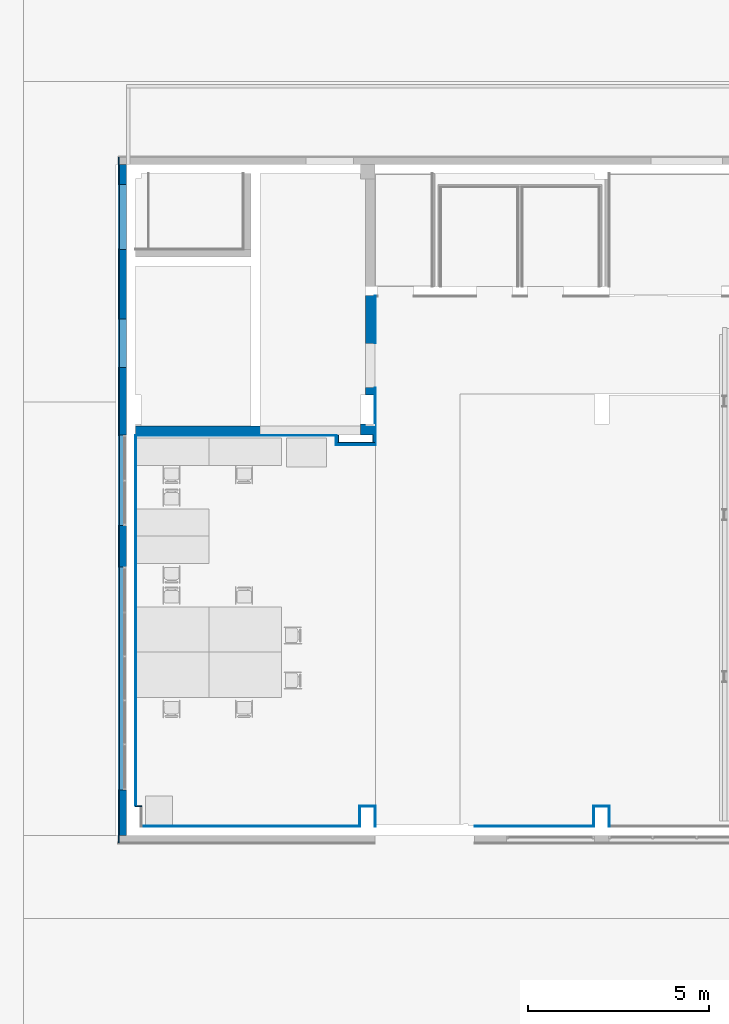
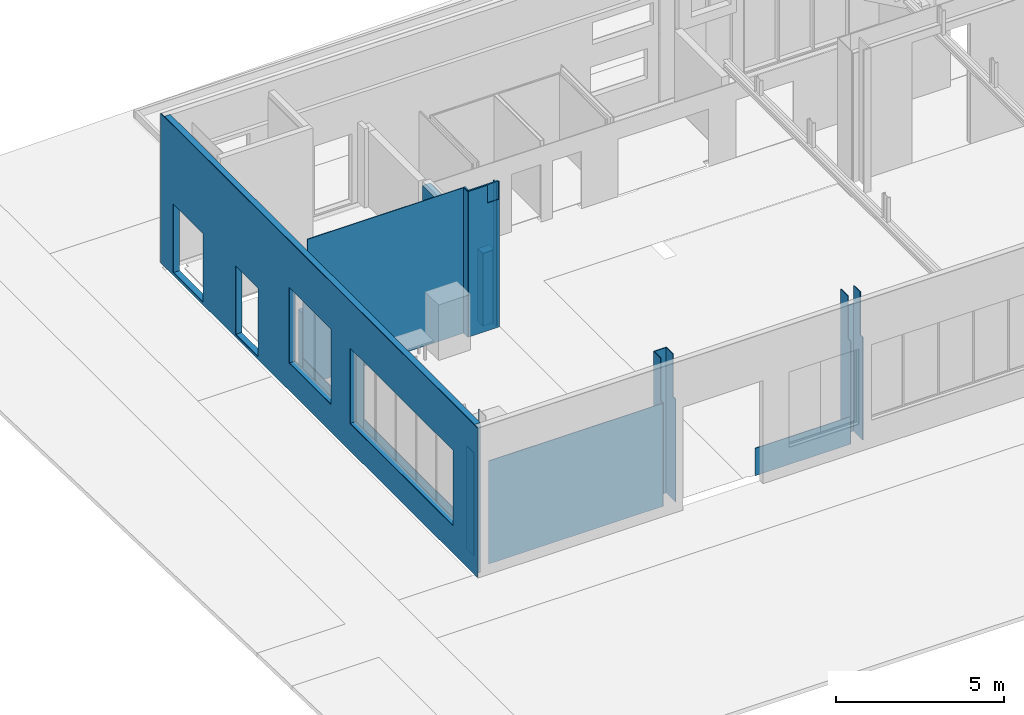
# One storey, part 11 of 27: 25 walls, 10 openings.
"""IFC2X3 building model written with IfcOpenShell, lengths in centimetres."""

from ifc_helpers import new_model, entity, si_unit, converted_unit, derived_unit, direction, frame, frame_2d, origin, origin_2d_with_axis, place, context, subcontext, project, spatial, polyline, rectangle, extrude, clip, bounded_halfspace, material, layer, layer_set, layer_usage, type_object, element, save


model = new_model("IFC2X3")

# Units and contexts
model_context = context("Model", 3, precision=0.001, world=origin(), true_north=direction((6.12303176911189e-17, 1.0)))
body_context = subcontext(model_context, "Body", "Model", "MODEL_VIEW")
ifc_project = project(units=[si_unit("LENGTHUNIT", "METRE", prefix="CENTI"), si_unit("AREAUNIT", "SQUARE_METRE"), si_unit("VOLUMEUNIT", "CUBIC_METRE"), converted_unit("PLANEANGLEUNIT", "DEGREE", entity("IfcRatioMeasure", 0.0174532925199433), si_unit("PLANEANGLEUNIT", "RADIAN"), dimensions=[0, 0, 0, 0, 0, 0, 0]), si_unit("MASSUNIT", "GRAM", prefix="KILO"), derived_unit("MASSDENSITYUNIT", [(si_unit("MASSUNIT", "GRAM", prefix="KILO"), 1), (si_unit("LENGTHUNIT", "METRE"), -3)]), derived_unit("MOMENTOFINERTIAUNIT", [(si_unit("LENGTHUNIT", "METRE"), 4)]), si_unit("TIMEUNIT", "SECOND"), si_unit("FREQUENCYUNIT", "HERTZ"), si_unit("THERMODYNAMICTEMPERATUREUNIT", "DEGREE_CELSIUS"), derived_unit("THERMALTRANSMITTANCEUNIT", [(si_unit("MASSUNIT", "GRAM", prefix="KILO"), 1), (si_unit("THERMODYNAMICTEMPERATUREUNIT", "KELVIN"), -1), (si_unit("TIMEUNIT", "SECOND"), -3)]), derived_unit("VOLUMETRICFLOWRATEUNIT", [(si_unit("LENGTHUNIT", "METRE"), 3), (si_unit("TIMEUNIT", "SECOND"), -1)]), si_unit("ELECTRICCURRENTUNIT", "AMPERE"), si_unit("ELECTRICVOLTAGEUNIT", "VOLT"), si_unit("POWERUNIT", "WATT"), si_unit("FORCEUNIT", "NEWTON", prefix="KILO"), si_unit("ILLUMINANCEUNIT", "LUX"), si_unit("LUMINOUSFLUXUNIT", "LUMEN"), si_unit("LUMINOUSINTENSITYUNIT", "CANDELA"), derived_unit("USERDEFINED", [(si_unit("MASSUNIT", "GRAM", prefix="KILO"), -1), (si_unit("LENGTHUNIT", "METRE"), -2), (si_unit("TIMEUNIT", "SECOND"), 3), (si_unit("LUMINOUSFLUXUNIT", "LUMEN"), 1)]), derived_unit("LINEARVELOCITYUNIT", [(si_unit("LENGTHUNIT", "METRE"), 1), (si_unit("TIMEUNIT", "SECOND"), -1)]), si_unit("PRESSUREUNIT", "PASCAL"), derived_unit("USERDEFINED", [(si_unit("LENGTHUNIT", "METRE"), -2), (si_unit("MASSUNIT", "GRAM", prefix="KILO"), 1), (si_unit("TIMEUNIT", "SECOND"), -2)]), derived_unit("LINEARFORCEUNIT", [(si_unit("MASSUNIT", "GRAM", prefix="KILO"), 1), (si_unit("LENGTHUNIT", "METRE"), 1), (si_unit("TIMEUNIT", "SECOND"), -2), (si_unit("LENGTHUNIT", "METRE"), -1)]), derived_unit("PLANARFORCEUNIT", [(si_unit("MASSUNIT", "GRAM", prefix="KILO"), 1), (si_unit("LENGTHUNIT", "METRE"), 1), (si_unit("TIMEUNIT", "SECOND"), -2), (si_unit("LENGTHUNIT", "METRE"), -2)])], contexts=[model_context])

# Site, building, storey
site_placement = place(None, origin())
site = spatial("IfcSite", under=ifc_project, at=site_placement, Name="Default", CompositionType="ELEMENT")
building_placement = place(site_placement, origin())
building = spatial("IfcBuilding", under=site, at=building_placement, CompositionType="ELEMENT")
storey_placement = place(building_placement, origin())
storey = spatial("IfcBuildingStorey", under=building, at=storey_placement, Name="Poziom 0 A +/-0,00", CompositionType="ELEMENT", Elevation=3.38570427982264e-11)

# Wall
ifc_material_1 = material(Name="Pustak ceramiczny, klasa 15")
ifc_layer_1 = layer(ifc_material_1, 25.0)
ifc_layer_set_1 = layer_set([ifc_layer_1], Name="Ściana podstawowa:Ściana murowana gr. 25cm")
ifc_layer_usage_1 = layer_usage(ifc_layer_set_1, "AXIS2", "NEGATIVE", 12.5)
wall_type_1 = type_object("IfcWallType", Name="Ściana podstawowa:Ściana murowana gr. 25cm", PredefinedType="STANDARD", material=ifc_layer_set_1)
wall_1_placement = place(storey_placement, frame((-2909.26510381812, 1371.62745234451, 0.0)))
element("IfcWallStandardCase", 1, at=wall_1_placement, inside=storey, type_object=wall_type_1, material=ifc_layer_usage_1, Name="Ściana podstawowa:Ściana murowana gr. 25cm", ObjectType="Ściana podstawowa:Ściana murowana gr. 25cm", context=body_context, shape_type="SweptSolid", body=[
    extrude(rectangle(XDim=619.999997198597, YDim=24.9999999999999, at=frame_2d((309.999998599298, 0.0), x_axis=(-1.0, 0.0))), origin(), (0.0, 0.0, 1.0), 264.999999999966),
])

# Wall, opening
ifc_layer_usage_2 = layer_usage(ifc_layer_set_1, "AXIS2", "NEGATIVE", 12.5)
wall_2_placement = place(storey_placement, frame((-2261.76511967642, 1470.12745207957, 0.0), z_axis=(0.0, 0.0, 1.0), x_axis=(0.0, 1.0, 0.0)))
wall_2 = element("IfcWallStandardCase", 2, at=wall_2_placement, inside=storey, type_object=wall_type_1, material=ifc_layer_usage_2, Name="Ściana podstawowa:Ściana murowana gr. 25cm", ObjectType="Ściana podstawowa:Ściana murowana gr. 25cm", context=body_context, shape_type="SweptSolid", body=[
    extrude(rectangle(XDim=272.999999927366, YDim=25.0000000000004, at=frame_2d((136.499999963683, 0.0), x_axis=(-1.0, 0.0))), origin(), (0.0, 0.0, 1.0), 274.999999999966),
])
opening_1_placement = place(wall_2_placement, origin())
element("IfcOpeningElement", 3, at=opening_1_placement, cuts=wall_2, Name="Ściana podstawowa:Ściana murowana gr. 25cm", ObjectType="Opening", context=body_context, shape_type="SweptSolid", body=[
    extrude(rectangle(XDim=210.0, YDim=122.0, at=frame_2d((0.0, 0.0), x_axis=(0.0, 1.0))), frame((81.0, -164.9, 105.0), z_axis=(0.0, 1.0, 0.0), x_axis=(1.0, 0.0, 0.0)), (0.0, 0.0, 1.0), 304.8),
])

# Walls
ifc_material_2 = material(Name="Cegła, zwykła")
ifc_layer_2 = layer(ifc_material_2, 40.0)
ifc_layer_set_2 = layer_set([ifc_layer_2], Name="Ściana podstawowa:Ściana murowana gr. 40cm")
ifc_layer_usage_3 = layer_usage(ifc_layer_set_2, "AXIS2", "NEGATIVE", 20.0)
wall_type_2 = type_object("IfcWallType", Name="Ściana podstawowa:Ściana murowana gr. 40cm", PredefinedType="STANDARD", material=ifc_layer_set_2)
wall_3_placement = place(storey_placement, frame((-2269.26510661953, 1390.12745208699, 0.0), z_axis=(0.0, 0.0, 1.0), x_axis=(0.0, -1.0, 0.0)))
element("IfcWallStandardCase", 4, at=wall_3_placement, inside=storey, type_object=wall_type_2, material=ifc_layer_usage_3, Name="Ściana podstawowa:Ściana murowana gr. 40cm", ObjectType="Ściana podstawowa:Ściana murowana gr. 40cm", context=body_context, shape_type="SweptSolid", body=[
    extrude(rectangle(XDim=30.9999993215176, YDim=39.9999999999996, at=frame_2d((15.4999996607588, 0.0), x_axis=(-1.0, 0.0))), origin(), (0.0, 0.0, 1.0), 264.999999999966),
])
ifc_material_3 = material(Name="Wełna skalna")
ifc_layer_3 = layer(ifc_material_3, 5.0)
ifc_layer_set_3 = layer_set([ifc_layer_3], Name="Ściana podstawowa:Ściana GK rdzeń gr. 5cm")
ifc_layer_usage_4 = layer_usage(ifc_layer_set_3, "AXIS2", "POSITIVE", -2.5)
wall_type_3 = type_object("IfcWallType", Name="Ściana podstawowa:Ściana GK rdzeń gr. 5cm", PredefinedType="STANDARD", material=ifc_layer_set_3)
wall_4_placement = place(storey_placement, frame((-2351.76515230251, 1359.12745234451, 0.0), z_axis=(0.0, 0.0, 1.0), x_axis=(0.0, -1.0, 0.0)))
element("IfcWallStandardCase", 5, at=wall_4_placement, inside=storey, type_object=wall_type_3, material=ifc_layer_usage_4, Name="Ściana podstawowa:Ściana GK rdzeń gr. 5cm", ObjectType="Ściana podstawowa:Ściana GK rdzeń gr. 5cm", context=body_context, shape_type="SweptSolid", body=[
    extrude(rectangle(XDim=20.0000003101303, YDim=4.99999999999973, at=frame_2d((10.0000001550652, 0.0), x_axis=(-1.0, 0.0))), origin(), (0.0, 0.0, 1.0), 529.999999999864),
])
ifc_layer_usage_5 = layer_usage(ifc_layer_set_3, "AXIS2", "POSITIVE", -2.5)
wall_5_placement = place(storey_placement, frame((-2354.26515230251, 1336.62745203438, 0.0)))
element("IfcWallStandardCase", 6, at=wall_5_placement, inside=storey, type_object=wall_type_3, material=ifc_layer_usage_5, Name="Ściana podstawowa:Ściana GK rdzeń gr. 5cm", ObjectType="Ściana podstawowa:Ściana GK rdzeń gr. 5cm", context=body_context, shape_type="SweptSolid", body=[
    extrude(rectangle(XDim=105.000032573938, YDim=5.00000000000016, at=frame_2d((52.5000162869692, 0.0), x_axis=(-1.0, 0.0))), origin(), (0.0, 0.0, 1.0), 529.999999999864),
])
ifc_layer_usage_6 = layer_usage(ifc_layer_set_3, "AXIS2", "POSITIVE", -2.5)
wall_6_placement = place(storey_placement, frame((-2251.76510899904, 1339.12745203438, 0.0), z_axis=(0.0, 0.0, 1.0), x_axis=(0.0, 1.0, 0.0)))
element("IfcWallStandardCase", 7, at=wall_6_placement, inside=storey, type_object=wall_type_3, material=ifc_layer_usage_6, Name="Ściana podstawowa:Ściana GK rdzeń gr. 5cm", ObjectType="Ściana podstawowa:Ściana GK rdzeń gr. 5cm", context=body_context, shape_type="SweptSolid", body=[
    extrude(rectangle(XDim=19.9999999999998, YDim=4.99999999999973, at=frame_2d((9.99999999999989, 0.0), x_axis=(-1.0, 0.0))), origin(), (0.0, 0.0, 1.0), 519.999999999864),
])
ifc_material_4 = material(Name="Tynk gipsowy")
ifc_layer_4 = layer(ifc_material_4, 2.5)
ifc_layer_set_4 = layer_set([ifc_layer_4], Name="Ściana podstawowa:Tynk wykończenie gr. 2,5cm")
ifc_layer_usage_7 = layer_usage(ifc_layer_set_4, "AXIS2", "NEGATIVE", 1.25)
wall_type_4 = type_object("IfcWallType", Name="Ściana podstawowa:Tynk wykończenie gr. 2,5cm", PredefinedType="STANDARD", material=ifc_layer_set_4)
wall_7_placement = place(storey_placement, frame((-2909.26510381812, 1357.87745234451, 0.0)))
element("IfcWallStandardCase", 8, at=wall_7_placement, inside=storey, type_object=wall_type_4, material=ifc_layer_usage_7, Name="Ściana podstawowa:Tynk wykończenie gr. 2,5cm", ObjectType="Ściana podstawowa:Tynk wykończenie gr. 2,5cm", context=body_context, shape_type="Clipping", body=[
    clip(clip(extrude(rectangle(XDim=554.999951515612, YDim=2.49999999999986, at=frame_2d((277.499975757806, 0.0), x_axis=(-1.0, 0.0))), origin(), (0.0, 0.0, 1.0), 529.999999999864), bounded_halfspace(frame((14.9999956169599, -1.25000000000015, 375.0)), False, frame((14.9999956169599, -1.25000000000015, 375.0)), polyline([(0.0, 0.0), (0.0, 2.50000000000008), (-12.9999984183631, 2.5000000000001), (-14.9999956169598, 2.50000000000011), (-14.9999956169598, 0.0), (0.0, 0.0)]))), bounded_halfspace(frame((14.9999956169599, 1.24999999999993, 375.0), z_axis=(-1.0, 0.0, 0.0), x_axis=(0.0, 0.0, 1.0)), False, frame((14.9999956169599, 1.24999999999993, 375.0), z_axis=(-1.0, 0.0, 0.0), x_axis=(0.0, 0.0, 1.0)), polyline([(0.0, 0.0), (0.0, -2.50000000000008), (155.0, -2.50000000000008), (155.0, 0.0), (0.0, 0.0)]))),
])
ifc_layer_usage_8 = layer_usage(ifc_layer_set_4, "AXIS2", "NEGATIVE", 1.25)
wall_8_placement = place(storey_placement, frame((-2355.51515230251, 1356.62745234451, 0.0), z_axis=(0.0, 0.0, 1.0), x_axis=(0.0, -1.0, 0.0)))
element("IfcWallStandardCase", 9, at=wall_8_placement, inside=storey, type_object=wall_type_4, material=ifc_layer_usage_8, Name="Ściana podstawowa:Tynk wykończenie gr. 2,5cm", ObjectType="Ściana podstawowa:Tynk wykończenie gr. 2,5cm", context=body_context, shape_type="Clipping", body=[
    clip(extrude(rectangle(XDim=25.0000003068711, YDim=2.5000000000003, at=frame_2d((12.5000001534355, 0.0), x_axis=(-1.0, 0.0))), origin(), (0.0, 0.0, 1.0), 529.999999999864), bounded_halfspace(frame((0.0, -1.24999999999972, 0.0), z_axis=(1.0, 0.0, 0.0), x_axis=(0.0, 1.0, 0.0)), True, frame((0.0, -1.24999999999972, 0.0), z_axis=(1.0, 0.0, 0.0), x_axis=(0.0, 1.0, 0.0)), polyline([(0.0, 0.0), (2.49999999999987, 0.0), (2.49999999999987, 530.0), (0.0, 530.0), (0.0, 0.0)]))),
])
ifc_layer_usage_9 = layer_usage(ifc_layer_set_4, "AXIS2", "POSITIVE", -1.25)
wall_9_placement = place(storey_placement, frame((-2354.26515230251, 1332.87745203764, 0.0)))
element("IfcWallStandardCase", 10, at=wall_9_placement, inside=storey, type_object=wall_type_4, material=ifc_layer_usage_9, Name="Ściana podstawowa:Tynk wykończenie gr. 2,5cm", ObjectType="Ściana podstawowa:Tynk wykończenie gr. 2,5cm", context=body_context, shape_type="Clipping", body=[
    clip(extrude(rectangle(XDim=107.500032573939, YDim=2.49999999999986, at=frame_2d((53.7500162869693, 0.0), x_axis=(-1.0, 0.0))), origin(), (0.0, 0.0, 1.0), 529.999999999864), bounded_halfspace(frame((65.0000433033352, 1.24999999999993, 465.0), z_axis=(0.0, 0.0, -1.0), x_axis=(0.0, 1.0, 0.0)), True, frame((65.0000433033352, 1.24999999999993, 465.0), z_axis=(0.0, 0.0, -1.0), x_axis=(0.0, 1.0, 0.0)), polyline([(0.0, 0.0), (0.0, 40.0), (-2.50000000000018, 40.0), (-2.50000000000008, 0.0), (0.0, 0.0)]))),
])

# Wall, opening
ifc_layer_usage_10 = layer_usage(ifc_layer_set_4, "AXIS2", "POSITIVE", -1.25)
wall_10_placement = place(storey_placement, frame((-2248.01511972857, 1334.12745203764, 0.0), z_axis=(0.0, 0.0, 1.0), x_axis=(0.0, 1.0, 0.0)))
wall_10 = element("IfcWallStandardCase", 11, at=wall_10_placement, inside=storey, type_object=wall_type_4, material=ifc_layer_usage_10, Name="Ściana podstawowa:Tynk wykończenie gr. 2,5cm", ObjectType="Ściana podstawowa:Tynk wykończenie gr. 2,5cm", context=body_context, shape_type="SweptSolid", body=[
    extrude(rectangle(XDim=409.0, YDim=2.5000000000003, at=frame_2d((204.5, 0.0), x_axis=(-1.0, 0.0))), origin(), (0.0, 0.0, 1.0), 275.0),
])
opening_2_placement = place(wall_10_placement, origin())
element("IfcOpeningElement", 12, at=opening_2_placement, cuts=wall_10, Name="Ściana podstawowa:Tynk wykończenie gr. 2,5cm", ObjectType="Opening", context=body_context, shape_type="SweptSolid", body=[
    extrude(rectangle(XDim=210.0, YDim=122.0, at=frame_2d((0.0, 0.0), x_axis=(0.0, 1.0))), frame((217.0, -151.150000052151, 105.0), z_axis=(0.0, 1.0, 0.0), x_axis=(1.0, 0.0, 0.0)), (0.0, 0.0, 1.0), 304.8),
])

# Walls
ifc_layer_usage_11 = layer_usage(ifc_layer_set_4, "AXIS2", "POSITIVE", -1.25)
wall_11_placement = place(storey_placement, frame((-2908.01510381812, 1356.62745234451, 0.0), z_axis=(0.0, 0.0, 1.0), x_axis=(0.0, -1.0, 0.0)))
element("IfcWallStandardCase", 13, at=wall_11_placement, inside=storey, type_object=wall_type_4, material=ifc_layer_usage_11, Name="Ściana podstawowa:Tynk wykończenie gr. 2,5cm", ObjectType="Ściana podstawowa:Tynk wykończenie gr. 2,5cm", context=body_context, shape_type="SweptSolid", body=[
    extrude(rectangle(XDim=244.500000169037, YDim=2.5000000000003, at=frame_2d((122.250000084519, -9.2148511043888e-15), x_axis=(-1.0, 0.0))), origin(), (0.0, 0.0, 1.0), 100.0),
])
ifc_layer_usage_12 = layer_usage(ifc_layer_set_4, "AXIS2", "POSITIVE", -1.25)
wall_12_placement = place(storey_placement, frame((-2909.26510381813, 336.377657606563, 0.0)))
element("IfcWallStandardCase", 14, at=wall_12_placement, inside=storey, type_object=wall_type_4, material=ifc_layer_usage_12, Name="Ściana podstawowa:Tynk wykończenie gr. 2,5cm", ObjectType="Ściana podstawowa:Tynk wykończenie gr. 2,5cm", context=body_context, shape_type="Clipping", body=[
    clip(clip(extrude(rectangle(XDim=17.4999873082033, YDim=2.49999999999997, at=frame_2d((8.74999365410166, 0.0), x_axis=(-1.0, 0.0))), origin(), (0.0, 0.0, 1.0), 529.999999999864), bounded_halfspace(frame((14.9999956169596, -1.25000000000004, 375.0)), False, frame((14.9999956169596, -1.25000000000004, 375.0)), polyline([(0.0, 0.0), (0.0, 2.50000000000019), (-14.9999956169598, 2.50000000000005), (-14.9999956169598, 0.0), (0.0, 0.0)]))), bounded_halfspace(frame((14.9999956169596, 1.25000000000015, 375.0), z_axis=(-1.0, 0.0, 0.0), x_axis=(0.0, 0.0, 1.0)), False, frame((14.9999956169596, 1.25000000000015, 375.0), z_axis=(-1.0, 0.0, 0.0), x_axis=(0.0, 0.0, 1.0)), polyline([(0.0, 0.0), (0.0, -2.50000000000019), (155.0, -2.50000000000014), (155.0, 0.0), (0.0, 0.0)]))),
])
ifc_layer_usage_13 = layer_usage(ifc_layer_set_4, "AXIS2", "POSITIVE", -1.25)
wall_13_placement = place(storey_placement, frame((-2891.76511650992, 281.377499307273, 0.0)))
element("IfcWallStandardCase", 15, at=wall_13_placement, inside=storey, type_object=wall_type_4, material=ifc_layer_usage_13, Name="Ściana podstawowa:Tynk wykończenie gr. 2,5cm", ObjectType="Ściana podstawowa:Tynk wykończenie gr. 2,5cm", context=body_context, shape_type="SweptSolid", body=[
    extrude(rectangle(XDim=602.500009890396, YDim=2.49999999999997, at=frame_2d((301.250004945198, 0.0), x_axis=(-1.0, 0.0))), origin(), (0.0, 0.0, 1.0), 374.999999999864),
])
ifc_layer_usage_14 = layer_usage(ifc_layer_set_4, "AXIS2", "POSITIVE", -1.25)
wall_14_placement = place(storey_placement, frame((-2290.51510661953, 280.127499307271, 0.0), z_axis=(0.0, 0.0, 1.0), x_axis=(0.0, 1.0, 0.0)))
element("IfcWallStandardCase", 16, at=wall_14_placement, inside=storey, type_object=wall_type_4, material=ifc_layer_usage_14, Name="Ściana podstawowa:Tynk wykończenie gr. 2,5cm", ObjectType="Ściana podstawowa:Tynk wykończenie gr. 2,5cm", context=body_context, shape_type="Clipping", body=[
    clip(clip(extrude(rectangle(XDim=57.4999527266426, YDim=2.5000000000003, at=frame_2d((28.7499763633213, 0.0), x_axis=(-1.0, 0.0))), origin(), (0.0, 0.0, 1.0), 529.999999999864), bounded_halfspace(frame((14.999952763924, 1.25000000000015, 375.0), z_axis=(-1.0, 0.0, 0.0), x_axis=(0.0, 0.0, -1.0)), False, frame((14.999952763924, 1.25000000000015, 375.0), z_axis=(-1.0, 0.0, 0.0), x_axis=(0.0, 0.0, -1.0)), polyline([(0.0, 0.0), (0.0, 2.49999999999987), (-155.0, 2.49999999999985), (-155.0, 0.0), (0.0, 0.0)]))), bounded_halfspace(frame((14.999952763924, -1.24999999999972, 375.0), z_axis=(0.0, 0.0, 1.0), x_axis=(-1.0, 0.0, 0.0)), False, frame((14.999952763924, -1.24999999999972, 375.0), z_axis=(0.0, 0.0, 1.0), x_axis=(-1.0, 0.0, 0.0)), polyline([(0.0, 0.0), (0.0, -2.49999999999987), (14.999952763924, -2.49999999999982), (14.999952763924, 0.0), (0.0, 0.0)]))),
])
ifc_layer_usage_15 = layer_usage(ifc_layer_set_4, "AXIS2", "NEGATIVE", 1.25)
wall_15_placement = place(storey_placement, frame((-2289.26510661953, 336.377452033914, 0.0)))
element("IfcWallStandardCase", 17, at=wall_15_placement, inside=storey, type_object=wall_type_4, material=ifc_layer_usage_15, Name="Ściana podstawowa:Tynk wykończenie gr. 2,5cm", ObjectType="Ściana podstawowa:Tynk wykończenie gr. 2,5cm", context=body_context, shape_type="SweptSolid", body=[
    extrude(rectangle(XDim=42.4999869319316, YDim=2.49999999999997, at=frame_2d((21.2499934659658, 0.0), x_axis=(-1.0, 0.0))), origin(), (0.0, 0.0, 1.0), 529.999999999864),
])
ifc_layer_usage_16 = layer_usage(ifc_layer_set_4, "AXIS2", "NEGATIVE", 1.25)
wall_16_placement = place(storey_placement, frame((-2248.0151196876, 337.627452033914, 0.0), z_axis=(0.0, 0.0, 1.0), x_axis=(0.0, -1.0, 0.0)))
element("IfcWallStandardCase", 18, at=wall_16_placement, inside=storey, type_object=wall_type_4, material=ifc_layer_usage_16, Name="Ściana podstawowa:Tynk wykończenie gr. 2,5cm", ObjectType="Ściana podstawowa:Tynk wykończenie gr. 2,5cm", context=body_context, shape_type="Clipping", body=[
    clip(clip(extrude(rectangle(XDim=57.4999527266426, YDim=2.5000000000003, at=frame_2d((28.7499763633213, 0.0), x_axis=(-1.0, 0.0))), origin(), (0.0, 0.0, 1.0), 529.999999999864), bounded_halfspace(frame((42.4999999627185, -1.24999999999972, 375.0), z_axis=(1.0, 0.0, 0.0), x_axis=(0.0, 0.0, -1.0)), False, frame((42.4999999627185, -1.24999999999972, 375.0), z_axis=(1.0, 0.0, 0.0), x_axis=(0.0, 0.0, -1.0)), polyline([(0.0, 0.0), (0.0, 2.49999999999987), (-155.0, 2.49999999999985), (-155.0, 0.0), (0.0, 0.0)]))), bounded_halfspace(frame((42.4999999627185, 1.25000000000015, 375.0)), False, frame((42.4999999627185, 1.25000000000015, 375.0)), polyline([(0.0, 0.0), (0.0, -2.49999999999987), (14.999952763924, -2.49999999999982), (14.999952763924, 0.0), (0.0, 0.0)]))),
])
ifc_layer_usage_17 = layer_usage(ifc_layer_set_4, "AXIS2", "POSITIVE", -1.25)
wall_17_placement = place(storey_placement, frame((-2908.01510381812, 1112.12745217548, 0.0), z_axis=(0.0, 0.0, 1.0), x_axis=(0.0, -1.0, 0.0)))
element("IfcWallStandardCase", 19, at=wall_17_placement, inside=storey, type_object=wall_type_4, material=ifc_layer_usage_17, Name="Ściana podstawowa:Tynk wykończenie gr. 2,5cm", ObjectType="Ściana podstawowa:Tynk wykończenie gr. 2,5cm", context=body_context, shape_type="Clipping", body=[
    clip(extrude(rectangle(XDim=116.000001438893, YDim=2.5000000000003, at=frame_2d((58.0000007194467, 9.69224700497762e-14), x_axis=(-1.0, 0.0))), origin(), (0.0, 0.0, 1.0), 374.999999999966), bounded_halfspace(frame((0.0, -1.24999999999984, 375.0), z_axis=(0.0, 0.0, 1.0), x_axis=(0.0, 1.0, 0.0)), False, frame((0.0, -1.24999999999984, 375.0), z_axis=(0.0, 0.0, 1.0), x_axis=(0.0, 1.0, 0.0)), polyline([(0.0, 0.0), (0.0, -116.000001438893), (2.50000000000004, -116.000001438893), (2.49999999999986, 0.0), (0.0, 0.0)]))),
])
ifc_layer_usage_18 = layer_usage(ifc_layer_set_4, "AXIS2", "POSITIVE", -1.25)
wall_18_placement = place(storey_placement, frame((-2908.01510381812, 996.127450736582, 0.0), z_axis=(0.0, 0.0, 1.0), x_axis=(0.0, -1.0, 0.0)))
element("IfcWallStandardCase", 20, at=wall_18_placement, inside=storey, type_object=wall_type_4, material=ifc_layer_usage_18, Name="Ściana podstawowa:Tynk wykończenie gr. 2,5cm", ObjectType="Ściana podstawowa:Tynk wykończenie gr. 2,5cm", context=body_context, shape_type="SweptSolid", body=[
    extrude(rectangle(XDim=614.99999839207, YDim=2.5000000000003, at=frame_2d((307.499999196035, -1.35447209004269e-13), x_axis=(-1.0, 0.0))), origin(), (0.0, 0.0, 1.0), 100.0),
])
ifc_layer_usage_19 = layer_usage(ifc_layer_set_4, "AXIS2", "POSITIVE", -1.25)
wall_19_placement = place(storey_placement, frame((-1974.26507570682, 281.37749930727, 0.0)))
element("IfcWallStandardCase", 21, at=wall_19_placement, inside=storey, type_object=wall_type_4, material=ifc_layer_usage_19, Name="Ściana podstawowa:Tynk wykończenie gr. 2,5cm", ObjectType="Ściana podstawowa:Tynk wykończenie gr. 2,5cm", context=body_context, shape_type="SweptSolid", body=[
    extrude(rectangle(XDim=327.499969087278, YDim=2.49999999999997, at=frame_2d((163.749984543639, 0.0), x_axis=(-1.0, 0.0))), origin(), (0.0, 0.0, 1.0), 100.0),
])
ifc_layer_usage_20 = layer_usage(ifc_layer_set_4, "AXIS2", "POSITIVE", -1.25)
wall_20_placement = place(storey_placement, frame((-1645.51510661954, 280.127657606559, 0.0), z_axis=(0.0, 0.0, 1.0), x_axis=(0.0, 1.0, 0.0)))
element("IfcWallStandardCase", 22, at=wall_20_placement, inside=storey, type_object=wall_type_4, material=ifc_layer_usage_20, Name="Ściana podstawowa:Tynk wykończenie gr. 2,5cm", ObjectType="Ściana podstawowa:Tynk wykończenie gr. 2,5cm", context=body_context, shape_type="Clipping", body=[
    clip(clip(extrude(rectangle(XDim=57.5, YDim=2.49999999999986, at=frame_2d((28.75, 0.0), x_axis=(-1.0, 0.0))), origin(), (0.0, 0.0, 1.0), 529.999999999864), bounded_halfspace(frame((14.9997944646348, 1.24999999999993, 375.0), z_axis=(-1.0, 0.0, 0.0), x_axis=(0.0, 0.0, -1.0)), False, frame((14.9997944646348, 1.24999999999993, 375.0), z_axis=(-1.0, 0.0, 0.0), x_axis=(0.0, 0.0, -1.0)), polyline([(0.0, 0.0), (0.0, 2.5000000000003), (-155.0, 2.50000000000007), (-155.0, 0.0), (0.0, 0.0)]))), bounded_halfspace(frame((14.9997944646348, -1.25000000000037, 375.0), z_axis=(0.0, 0.0, 1.0), x_axis=(-1.0, 0.0, 0.0)), False, frame((14.9997944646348, -1.25000000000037, 375.0), z_axis=(0.0, 0.0, 1.0), x_axis=(-1.0, 0.0, 0.0)), polyline([(0.0, 0.0), (0.0, -2.5000000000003), (14.9997944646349, -2.50000000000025), (14.9997944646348, 0.0), (0.0, 0.0)]))),
])
ifc_layer_usage_21 = layer_usage(ifc_layer_set_4, "AXIS2", "NEGATIVE", 1.25)
wall_21_placement = place(storey_placement, frame((-1644.26510661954, 336.377657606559, 0.0)))
element("IfcWallStandardCase", 23, at=wall_21_placement, inside=storey, type_object=wall_type_4, material=ifc_layer_usage_21, Name="Ściana podstawowa:Tynk wykończenie gr. 2,5cm", ObjectType="Ściana podstawowa:Tynk wykończenie gr. 2,5cm", context=body_context, shape_type="SweptSolid", body=[
    extrude(rectangle(XDim=42.4999869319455, YDim=2.49999999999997, at=frame_2d((21.2499934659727, 0.0), x_axis=(-1.0, 0.0))), origin(), (0.0, 0.0, 1.0), 464.999999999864),
])
ifc_layer_usage_22 = layer_usage(ifc_layer_set_4, "AXIS2", "NEGATIVE", 1.25)
wall_22_placement = place(storey_placement, frame((-1603.0151196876, 335.127657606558, 0.0), z_axis=(0.0, 0.0, 1.0), x_axis=(0.0, -1.0, 0.0)))
element("IfcWallStandardCase", 24, at=wall_22_placement, inside=storey, type_object=wall_type_4, material=ifc_layer_usage_22, Name="Ściana podstawowa:Tynk wykończenie gr. 2,5cm", ObjectType="Ściana podstawowa:Tynk wykończenie gr. 2,5cm", context=body_context, shape_type="Clipping", body=[
    clip(clip(extrude(rectangle(XDim=55.0001582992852, YDim=2.49999999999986, at=frame_2d((27.5000791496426, 0.0), x_axis=(-1.0, 0.0))), origin(), (0.0, 0.0, 1.0), 529.999999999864), bounded_halfspace(frame((40.0002055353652, -1.25000000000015, 375.0), z_axis=(1.0, 0.0, 0.0), x_axis=(0.0, 0.0, -1.0)), False, frame((40.0002055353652, -1.25000000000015, 375.0), z_axis=(1.0, 0.0, 0.0), x_axis=(0.0, 0.0, -1.0)), polyline([(0.0, 0.0), (0.0, 2.50000000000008), (-155.0, 2.50000000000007), (-155.0, 0.0), (0.0, 0.0)]))), bounded_halfspace(frame((40.0002055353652, 1.24999999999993, 375.0)), False, frame((40.0002055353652, 1.24999999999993, 375.0)), polyline([(0.0, 0.0), (0.0, -2.50000000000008), (14.99995276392, -2.50000000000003), (14.99995276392, 0.0), (0.0, 0.0)]))),
])
ifc_layer_usage_23 = layer_usage(ifc_layer_set_4, "AXIS2", "POSITIVE", -1.25)
wall_23_placement = place(storey_placement, frame((-2908.01510381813, 381.127452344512, 0.0), z_axis=(0.0, 0.0, 1.0), x_axis=(0.0, -1.0, 0.0)))
element("IfcWallStandardCase", 25, at=wall_23_placement, inside=storey, type_object=wall_type_4, material=ifc_layer_usage_23, Name="Ściana podstawowa:Tynk wykończenie gr. 2,5cm", ObjectType="Ściana podstawowa:Tynk wykończenie gr. 2,5cm", context=body_context, shape_type="SweptSolid", body=[
    extrude(rectangle(XDim=43.49979473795, YDim=2.5000000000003, at=frame_2d((21.749897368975, 3.63042929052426e-14), x_axis=(-1.0, 0.0))), origin(), (0.0, 0.0, 1.0), 374.999999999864),
])

# Wall, openings
ifc_layer_5 = layer(ifc_material_3, 20.0)
ifc_layer_set_5 = layer_set([ifc_layer_5], Name="Ściana podstawowa:Wełna mineralna gr. 20cm")
ifc_layer_usage_24 = layer_usage(ifc_layer_set_5, "AXIS2", "NEGATIVE", 10.0)
wall_type_5 = type_object("IfcWallType", Name="Ściana podstawowa:Wełna mineralna gr. 20cm", PredefinedType="STANDARD", material=ifc_layer_set_5)
wall_24_placement = place(storey_placement, frame((-2944.26512060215, 2105.12745061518, 0.0), z_axis=(0.0, 0.0, 1.0), x_axis=(0.0, -1.0, 0.0)))
wall_24 = element("IfcWallStandardCase", 26, at=wall_24_placement, inside=storey, type_object=wall_type_5, material=ifc_layer_usage_24, Name="Ściana podstawowa:Wełna mineralna gr. 20cm", ObjectType="Ściana podstawowa:Wełna mineralna gr. 20cm", context=body_context, shape_type="SweptSolid", body=[
    extrude(rectangle(XDim=1849.99999859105, YDim=19.9999999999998, at=frame_2d((924.999999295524, 0.0), x_axis=(-1.0, 0.0))), origin(), (0.0, 0.0, 1.0), 544.999999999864),
])
opening_3_placement = place(wall_24_placement, origin())
element("IfcOpeningElement", 27, at=opening_3_placement, cuts=wall_24, Name="Ściana podstawowa:Wełna mineralna gr. 20cm", ObjectType="Opening", context=body_context, shape_type="SweptSolid", body=[
    extrude(rectangle(XDim=250.0, YDim=134.0, at=frame_2d((0.0, -1.06581410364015e-13), x_axis=(1.0, 0.0))), frame((492.999998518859, -142.4, 135.0), z_axis=(0.0, 1.0, 0.0), x_axis=(0.0, 0.0, -1.0)), (0.0, 0.0, 1.0), 304.8),
])
opening_4_placement = place(wall_24_placement, origin())
element("IfcOpeningElement", 28, at=opening_4_placement, cuts=wall_24, Name="Ściana podstawowa:Wełna mineralna gr. 20cm", ObjectType="Opening", context=body_context, shape_type="SweptSolid", body=[
    extrude(rectangle(XDim=250.0, YDim=179.0, at=origin_2d_with_axis()), frame((144.499998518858, -142.4, 135.0), z_axis=(0.0, 1.0, 0.0), x_axis=(0.0, 0.0, -1.0)), (0.0, 0.0, 1.0), 304.8),
])
opening_5_placement = place(wall_24_placement, origin())
element("IfcOpeningElement", 29, at=opening_5_placement, cuts=wall_24, Name="Ściana podstawowa:Wełna mineralna gr. 20cm", ObjectType="Opening", context=body_context, shape_type="SweptSolid", body=[
    extrude(rectangle(XDim=274.999999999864, YDim=249.49998113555, at=frame_2d((1.06581410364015e-13, -2.8421709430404e-14), x_axis=(0.0, 1.0))), frame((870.749988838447, 10.0, 237.499999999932), z_axis=(0.0, -1.0, 0.0), x_axis=(-1.0, 0.0, 0.0)), (0.0, 0.0, 1.0), 20.0),
])
opening_6_placement = place(wall_24_placement, origin())
element("IfcOpeningElement", 30, at=opening_6_placement, cuts=wall_24, Name="Ściana podstawowa:Wełna mineralna gr. 20cm", ObjectType="Opening", context=body_context, shape_type="SweptSolid", body=[
    extrude(rectangle(XDim=274.999999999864, YDim=614.9999984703, at=frame_2d((0.0, -2.8421709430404e-14), x_axis=(0.0, 1.0))), frame((1416.49999903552, 10.0, 237.499999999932), z_axis=(0.0, -1.0, 0.0), x_axis=(-1.0, 0.0, 0.0)), (0.0, 0.0, 1.0), 20.0),
])

ifc_layer_6 = layer(ifc_material_4, 2.0)
ifc_layer_set_6 = layer_set([ifc_layer_6], Name="Ściana podstawowa:Tynk zewnętrzny gr. 2cm")
ifc_layer_usage_25 = layer_usage(ifc_layer_set_6, "AXIS2", "NEGATIVE", 1.0)
wall_type_6 = type_object("IfcWallType", Name="Ściana podstawowa:Tynk zewnętrzny gr. 2cm", PredefinedType="STANDARD", material=ifc_layer_set_6)
wall_25_placement = place(storey_placement, frame((-2955.26512060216, 2125.12745202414, 0.0), z_axis=(0.0, 0.0, 1.0), x_axis=(0.0, -1.0, 0.0)))
wall_25 = element("IfcWallStandardCase", 31, at=wall_25_placement, inside=storey, type_object=wall_type_6, material=ifc_layer_usage_25, Name="Ściana podstawowa:Tynk zewnętrzny gr. 2cm", ObjectType="Ściana podstawowa:Tynk zewnętrzny gr. 2cm", context=body_context, shape_type="SweptSolid", body=[
    extrude(rectangle(XDim=1890.0, YDim=2.00000000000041, at=frame_2d((945.0, -8.88178419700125e-16), x_axis=(-1.0, 0.0))), origin(), (0.0, 0.0, 1.0), 544.999999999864),
])
opening_7_placement = place(wall_25_placement, origin())
element("IfcOpeningElement", 32, at=opening_7_placement, cuts=wall_25, Name="Ściana podstawowa:Tynk zewnętrzny gr. 2cm", ObjectType="Opening", context=body_context, shape_type="SweptSolid", body=[
    extrude(rectangle(XDim=250.0, YDim=179.0, at=origin_2d_with_axis()), frame((164.499999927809, -131.399999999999, 135.0), z_axis=(0.0, 1.0, 0.0), x_axis=(0.0, 0.0, -1.0)), (0.0, 0.0, 1.0), 304.8),
])
opening_8_placement = place(wall_25_placement, origin())
element("IfcOpeningElement", 33, at=opening_8_placement, cuts=wall_25, Name="Ściana podstawowa:Tynk zewnętrzny gr. 2cm", ObjectType="Opening", context=body_context, shape_type="SweptSolid", body=[
    extrude(rectangle(XDim=250.0, YDim=134.0, at=frame_2d((0.0, -1.06581410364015e-13), x_axis=(1.0, 0.0))), frame((513.0, -131.399999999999, 135.0), z_axis=(0.0, 1.0, 0.0), x_axis=(0.0, 0.0, -1.0)), (0.0, 0.0, 1.0), 304.8),
])
opening_9_placement = place(wall_25_placement, origin())
element("IfcOpeningElement", 34, at=opening_9_placement, cuts=wall_25, Name="Ściana podstawowa:Tynk zewnętrzny gr. 2cm", ObjectType="Opening", context=body_context, shape_type="SweptSolid", body=[
    extrude(rectangle(XDim=274.999999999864, YDim=249.49998113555, at=frame_2d((1.06581410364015e-13, -2.8421709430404e-14), x_axis=(0.0, 1.0))), frame((890.749990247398, 1.0, 237.499999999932), z_axis=(0.0, -1.0, 0.0), x_axis=(-1.0, 0.0, 0.0)), (0.0, 0.0, 1.0), 2.0),
])
opening_10_placement = place(wall_25_placement, origin())
element("IfcOpeningElement", 35, at=opening_10_placement, cuts=wall_25, Name="Ściana podstawowa:Tynk zewnętrzny gr. 2cm", ObjectType="Opening", context=body_context, shape_type="SweptSolid", body=[
    extrude(rectangle(XDim=274.999999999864, YDim=614.9999984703, at=frame_2d((0.0, -2.8421709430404e-14), x_axis=(0.0, 1.0))), frame((1436.50000044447, 1.0, 237.499999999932), z_axis=(0.0, -1.0, 0.0), x_axis=(-1.0, 0.0, 0.0)), (0.0, 0.0, 1.0), 2.0),
])

save(model, "model.ifc")
